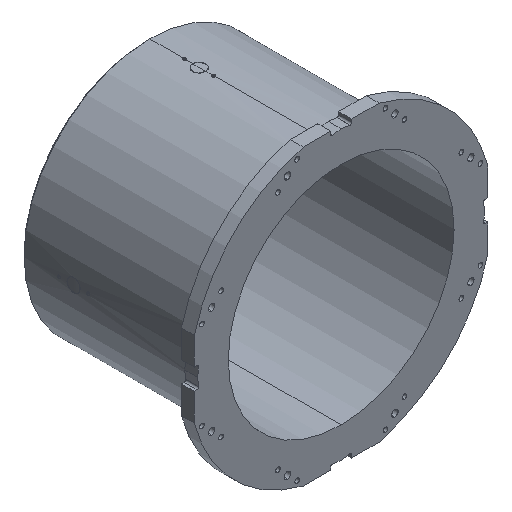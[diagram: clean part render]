
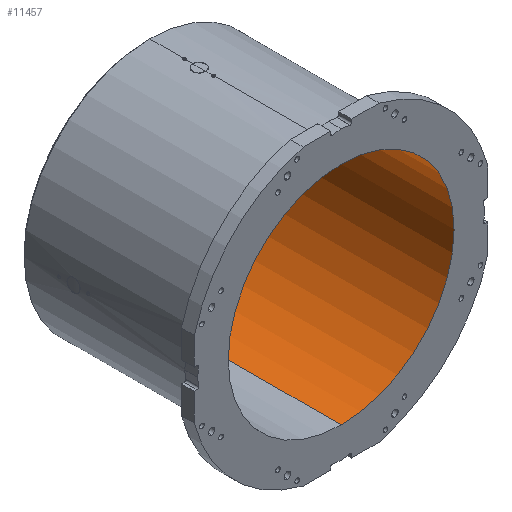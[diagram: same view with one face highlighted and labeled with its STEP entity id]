
A CAD part, isometric view. The second image highlights one B-rep face of the part: STEP entity #11457.
In plain terms, the highlighted cylindrical face has radius 350 mm (diameter 700 mm), a partial arc.
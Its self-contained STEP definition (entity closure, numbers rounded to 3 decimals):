
#367 = CARTESIAN_POINT ( 'NONE',  ( 0., 563., 350. ) ) ;
#837 = DIRECTION ( 'NONE',  ( 0., 0., 1. ) ) ;
#1773 = CARTESIAN_POINT ( 'NONE',  ( 0., 0., 350. ) ) ;
#1982 = EDGE_CURVE ( 'NONE', #9325, #4719, #5933, .T. ) ;
#2050 = CARTESIAN_POINT ( 'NONE',  ( 0., 0., 0. ) ) ;
#2288 = CARTESIAN_POINT ( 'NONE',  ( 0., 563., -350. ) ) ;
#2586 = VECTOR ( 'NONE', #6617, 1000. ) ;
#3240 = CARTESIAN_POINT ( 'NONE',  ( 0., 0., 0. ) ) ;
#3457 = CIRCLE ( 'NONE', #5989, 350. ) ;
#4092 = EDGE_CURVE ( 'NONE', #11497, #4388, #3457, .T. ) ;
#4204 = EDGE_LOOP ( 'NONE', ( #8546, #6822, #10658, #4253 ) ) ;
#4253 = ORIENTED_EDGE ( 'NONE', *, *, #1982, .T. ) ;
#4298 = DIRECTION ( 'NONE',  ( 0., 1., 0. ) ) ;
#4388 = VERTEX_POINT ( 'NONE', #4867 ) ;
#4719 = VERTEX_POINT ( 'NONE', #2288 ) ;
#4867 = CARTESIAN_POINT ( 'NONE',  ( 0., 0., -350. ) ) ;
#5043 = DIRECTION ( 'NONE',  ( 0., 0., 1. ) ) ;
#5355 = LINE ( 'NONE', #11355, #5891 ) ;
#5480 = FACE_OUTER_BOUND ( 'NONE', #4204, .T. ) ;
#5707 = CARTESIAN_POINT ( 'NONE',  ( 0., 0., 350. ) ) ;
#5807 = EDGE_CURVE ( 'NONE', #11497, #9325, #9516, .T. ) ;
#5869 = AXIS2_PLACEMENT_3D ( 'NONE', #3240, #8459, #10201 ) ;
#5891 = VECTOR ( 'NONE', #4298, 1000. ) ;
#5933 = CIRCLE ( 'NONE', #6555, 350. ) ;
#5989 = AXIS2_PLACEMENT_3D ( 'NONE', #2050, #6029, #5043 ) ;
#6029 = DIRECTION ( 'NONE',  ( 0., 1., 0. ) ) ;
#6555 = AXIS2_PLACEMENT_3D ( 'NONE', #6698, #10623, #837 ) ;
#6617 = DIRECTION ( 'NONE',  ( 0., 1., 0. ) ) ;
#6698 = CARTESIAN_POINT ( 'NONE',  ( 0., 563., 0. ) ) ;
#6822 = ORIENTED_EDGE ( 'NONE', *, *, #4092, .F. ) ;
#8459 = DIRECTION ( 'NONE',  ( 0., 1., 0. ) ) ;
#8546 = ORIENTED_EDGE ( 'NONE', *, *, #12715, .F. ) ;
#9325 = VERTEX_POINT ( 'NONE', #367 ) ;
#9421 = CYLINDRICAL_SURFACE ( 'NONE', #5869, 350. ) ;
#9516 = LINE ( 'NONE', #5707, #2586 ) ;
#10201 = DIRECTION ( 'NONE',  ( 0., 0., 1. ) ) ;
#10623 = DIRECTION ( 'NONE',  ( 0., 1., 0. ) ) ;
#10658 = ORIENTED_EDGE ( 'NONE', *, *, #5807, .T. ) ;
#11355 = CARTESIAN_POINT ( 'NONE',  ( 0., 0., -350. ) ) ;
#11457 = ADVANCED_FACE ( 'NONE', ( #5480 ), #9421, .F. ) ;
#11497 = VERTEX_POINT ( 'NONE', #1773 ) ;
#12715 = EDGE_CURVE ( 'NONE', #4388, #4719, #5355, .T. ) ;
